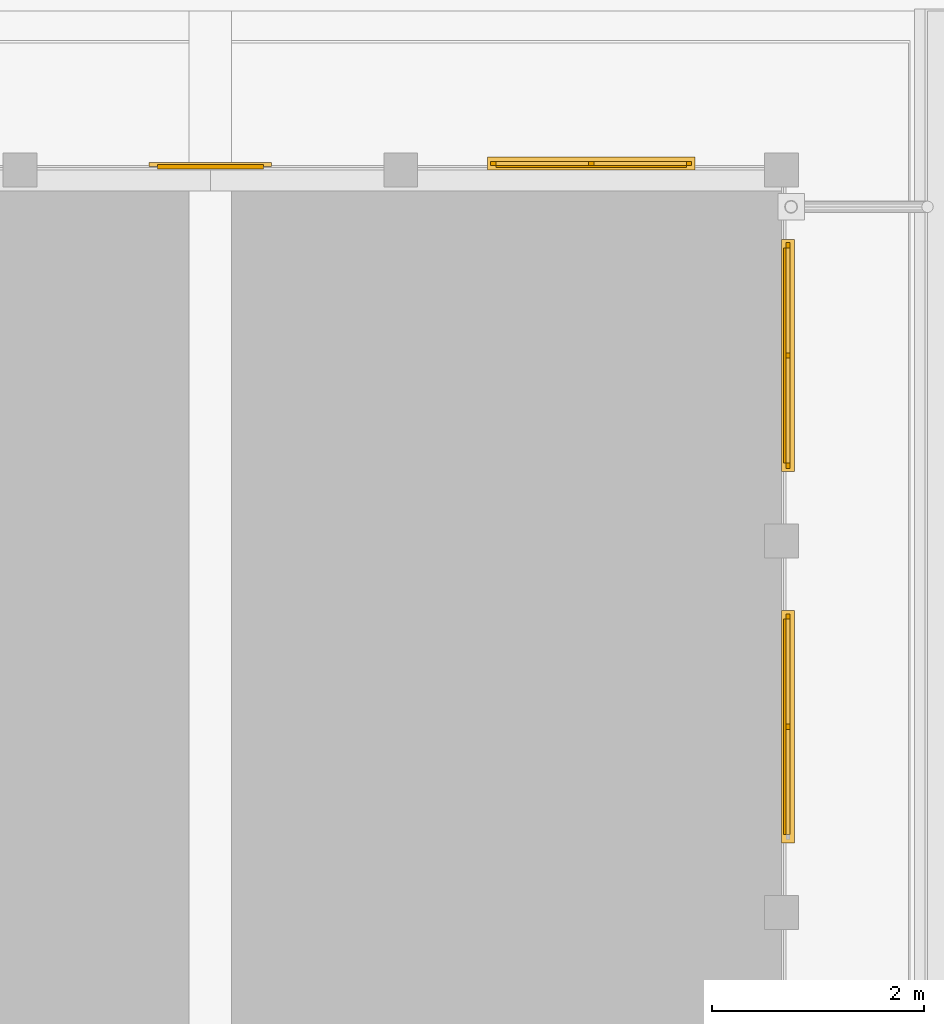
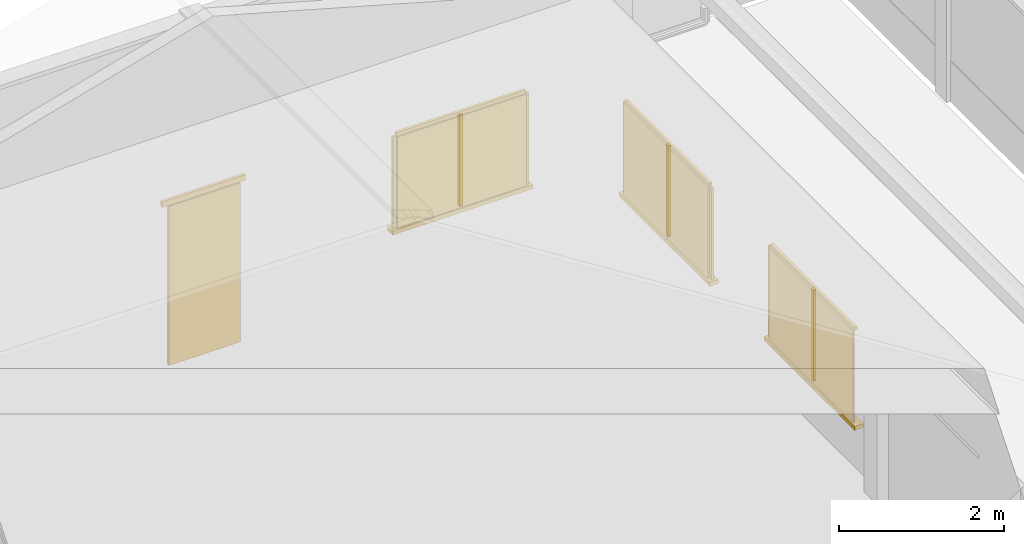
# One storey, part 73 of 177: 17 windows, 2 doors.
"""IFC4 building model written with IfcOpenShell, lengths in metres."""

from ifc_helpers import new_model, si_unit, origin, origin_with_axes, place, context, subcontext, project, spatial, triangles, element, save


model = new_model("IFC4")

# Units and contexts
model_context = context("Model", 3, precision=1e-05, world=origin_with_axes())
body_context = subcontext(model_context, "Body", "Model", "MODEL_VIEW")
ifc_project = project(units=[si_unit("LENGTHUNIT", "METRE"), si_unit("AREAUNIT", "SQUARE_METRE"), si_unit("VOLUMEUNIT", "CUBIC_METRE"), si_unit("PLANEANGLEUNIT", "RADIAN")], contexts=[model_context])

# Site, building, storey
site_placement = place(None, origin_with_axes())
site = spatial("IfcSite", under=ifc_project, at=site_placement, Name="Predio Los Mangos - Morales, San Martín", CompositionType="ELEMENT")
building_placement = place(site_placement, origin())
building = spatial("IfcBuilding", under=site, at=building_placement, Name="Hogar de Refugio Temporal", CompositionType="ELEMENT")
storey_placement = place(building_placement, origin())
storey = spatial("IfcBuildingStorey", under=building, at=storey_placement, Name="NIVEL 1 (NPT +0.00)", CompositionType="ELEMENT", Elevation=0.0)

# Doors
door_1_placement = place(storey_placement, origin())
element("IfcDoor", 1, at=door_1_placement, inside=storey, Name="E-07_pp", ObjectType="Puerta", PredefinedType="DOOR", context=body_context, shape_type="Tessellation", body=[
    triangles([(60.6, 127.81, 0.15), (61.6, 127.81, 0.15), (61.6, 127.85, 0.15), (60.6, 127.85, 0.15), (60.6, 127.81, 2.5), (61.6, 127.81, 2.5), (61.6, 127.85, 2.5), (60.6, 127.85, 2.5)], [[1, 4, 3], [1, 3, 2], [5, 6, 7], [5, 7, 8], [1, 2, 6], [1, 6, 5], [2, 3, 7], [2, 7, 6], [3, 4, 8], [3, 8, 7], [4, 1, 5], [4, 5, 8]]),
])
door_2_placement = place(storey_placement, origin())
element("IfcDoor", 2, at=door_2_placement, inside=storey, Name="E-07_pp_marco", ObjectType="Puerta", PredefinedType="DOOR", context=body_context, shape_type="Tessellation", body=[
    triangles([(60.52, 127.83, 2.5), (61.68, 127.83, 2.5), (61.68, 127.87, 2.5), (60.52, 127.87, 2.5), (60.52, 127.83, 2.58), (61.68, 127.83, 2.58), (61.68, 127.87, 2.58), (60.52, 127.87, 2.58)], [[1, 4, 3], [1, 3, 2], [5, 6, 7], [5, 7, 8], [1, 2, 6], [1, 6, 5], [2, 3, 7], [2, 7, 6], [3, 4, 8], [3, 8, 7], [4, 1, 5], [4, 5, 8]]),
])

# Windows
window_1_placement = place(storey_placement, origin())
element("IfcWindow", 3, at=window_1_placement, inside=storey, Name="E-07_vg2_vid", ObjectType="Ventana", PredefinedType="WINDOW", context=body_context, shape_type="Tessellation", body=[
    triangles([(63.8, 127.82, 1.05), (65.6, 127.82, 1.05), (65.6, 127.84, 1.05), (63.8, 127.84, 1.05), (63.8, 127.82, 2.4), (65.6, 127.82, 2.4), (65.6, 127.84, 2.4), (63.8, 127.84, 2.4)], [[1, 4, 3], [1, 3, 2], [5, 6, 7], [5, 7, 8], [1, 2, 6], [1, 6, 5], [2, 3, 7], [2, 7, 6], [3, 4, 8], [3, 8, 7], [4, 1, 5], [4, 5, 8]]),
])
window_2_placement = place(storey_placement, origin())
element("IfcWindow", 4, at=window_2_placement, inside=storey, Name="E-07_vg2_m", ObjectType="Ventana", PredefinedType="WINDOW", context=body_context, shape_type="Tessellation", body=[
    triangles([(63.75, 127.84, 1.05), (63.8, 127.84, 1.05), (63.8, 127.88, 1.05), (63.75, 127.88, 1.05), (63.75, 127.84, 2.4), (63.8, 127.84, 2.4), (63.8, 127.88, 2.4), (63.75, 127.88, 2.4)], [[1, 4, 3], [1, 3, 2], [5, 6, 7], [5, 7, 8], [1, 2, 6], [1, 6, 5], [2, 3, 7], [2, 7, 6], [3, 4, 8], [3, 8, 7], [4, 1, 5], [4, 5, 8]]),
])
window_3_placement = place(storey_placement, origin())
element("IfcWindow", 5, at=window_3_placement, inside=storey, Name="E-07_vg2_m", ObjectType="Ventana", PredefinedType="WINDOW", context=body_context, shape_type="Tessellation", body=[
    triangles([(65.6, 127.84, 1.05), (65.65, 127.84, 1.05), (65.65, 127.88, 1.05), (65.6, 127.88, 1.05), (65.6, 127.84, 2.4), (65.65, 127.84, 2.4), (65.65, 127.88, 2.4), (65.6, 127.88, 2.4)], [[1, 4, 3], [1, 3, 2], [5, 6, 7], [5, 7, 8], [1, 2, 6], [1, 6, 5], [2, 3, 7], [2, 7, 6], [3, 4, 8], [3, 8, 7], [4, 1, 5], [4, 5, 8]]),
])
window_4_placement = place(storey_placement, origin())
element("IfcWindow", 6, at=window_4_placement, inside=storey, Name="E-07_vg2_m", ObjectType="Ventana", PredefinedType="WINDOW", context=body_context, shape_type="Tessellation", body=[
    triangles([(63.8, 127.84, 2.4), (65.6, 127.84, 2.4), (65.6, 127.88, 2.4), (63.8, 127.88, 2.4), (63.8, 127.84, 2.45), (65.6, 127.84, 2.45), (65.6, 127.88, 2.45), (63.8, 127.88, 2.45)], [[1, 4, 3], [1, 3, 2], [5, 6, 7], [5, 7, 8], [1, 2, 6], [1, 6, 5], [2, 3, 7], [2, 7, 6], [3, 4, 8], [3, 8, 7], [4, 1, 5], [4, 5, 8]]),
])
window_5_placement = place(storey_placement, origin())
element("IfcWindow", 7, at=window_5_placement, inside=storey, Name="E-07_vg2_m", ObjectType="Ventana", PredefinedType="WINDOW", context=body_context, shape_type="Tessellation", body=[
    triangles([(64.675, 127.84, 1.05), (64.725, 127.84, 1.05), (64.725, 127.88, 1.05), (64.675, 127.88, 1.05), (64.675, 127.84, 2.4), (64.725, 127.84, 2.4), (64.725, 127.88, 2.4), (64.675, 127.88, 2.4)], [[1, 4, 3], [1, 3, 2], [5, 6, 7], [5, 7, 8], [1, 2, 6], [1, 6, 5], [2, 3, 7], [2, 7, 6], [3, 4, 8], [3, 8, 7], [4, 1, 5], [4, 5, 8]]),
])
window_6_placement = place(storey_placement, origin())
element("IfcWindow", 8, at=window_6_placement, inside=storey, Name="E-07_vg2_alf", ObjectType="Ventana", PredefinedType="WINDOW", context=body_context, shape_type="Tessellation", body=[
    triangles([(63.72, 127.8, 0.99), (65.68, 127.8, 0.99), (65.68, 127.92, 0.99), (63.72, 127.92, 0.99), (63.72, 127.8, 1.05), (65.68, 127.8, 1.05), (65.68, 127.92, 1.05), (63.72, 127.92, 1.05)], [[1, 4, 3], [1, 3, 2], [5, 6, 7], [5, 7, 8], [1, 2, 6], [1, 6, 5], [2, 3, 7], [2, 7, 6], [3, 4, 8], [3, 8, 7], [4, 1, 5], [4, 5, 8]]),
])
window_7_placement = place(storey_placement, origin())
element("IfcWindow", 9, at=window_7_placement, inside=storey, Name="E-07_v8_vid", ObjectType="Ventana", PredefinedType="WINDOW", context=body_context, shape_type="Tessellation", body=[
    triangles([(66.52, 121.5171, 1.05), (66.54, 121.5171, 1.05), (66.54, 123.5529, 1.05), (66.52, 123.5529, 1.05), (66.52, 121.5171, 2.4), (66.54, 121.5171, 2.4), (66.54, 123.5529, 2.4), (66.52, 123.5529, 2.4)], [[1, 4, 3], [1, 3, 2], [5, 6, 7], [5, 7, 8], [1, 2, 6], [1, 6, 5], [2, 3, 7], [2, 7, 6], [3, 4, 8], [3, 8, 7], [4, 1, 5], [4, 5, 8]]),
])
window_8_placement = place(storey_placement, origin())
element("IfcWindow", 10, at=window_8_placement, inside=storey, Name="E-07_v8_m", ObjectType="Ventana", PredefinedType="WINDOW", context=body_context, shape_type="Tessellation", body=[
    triangles([(66.54, 123.5529, 1.05), (66.58, 123.5529, 1.05), (66.58, 123.6029, 1.05), (66.54, 123.6029, 1.05), (66.54, 123.5529, 2.4), (66.58, 123.5529, 2.4), (66.58, 123.6029, 2.4), (66.54, 123.6029, 2.4)], [[1, 4, 3], [1, 3, 2], [5, 6, 7], [5, 7, 8], [1, 2, 6], [1, 6, 5], [2, 3, 7], [2, 7, 6], [3, 4, 8], [3, 8, 7], [4, 1, 5], [4, 5, 8]]),
])
window_9_placement = place(storey_placement, origin())
element("IfcWindow", 11, at=window_9_placement, inside=storey, Name="E-07_v8_m", ObjectType="Ventana", PredefinedType="WINDOW", context=body_context, shape_type="Tessellation", body=[
    triangles([(66.54, 121.5171, 2.4), (66.58, 121.5171, 2.4), (66.58, 123.5529, 2.4), (66.54, 123.5529, 2.4), (66.54, 121.5171, 2.45), (66.58, 121.5171, 2.45), (66.58, 123.5529, 2.45), (66.54, 123.5529, 2.45)], [[1, 4, 3], [1, 3, 2], [5, 6, 7], [5, 7, 8], [1, 2, 6], [1, 6, 5], [2, 3, 7], [2, 7, 6], [3, 4, 8], [3, 8, 7], [4, 1, 5], [4, 5, 8]]),
])
window_10_placement = place(storey_placement, origin())
element("IfcWindow", 12, at=window_10_placement, inside=storey, Name="E-07_v8_m", ObjectType="Ventana", PredefinedType="WINDOW", context=body_context, shape_type="Tessellation", body=[
    triangles([(66.54, 122.51, 1.05), (66.58, 122.51, 1.05), (66.58, 122.56, 1.05), (66.54, 122.56, 1.05), (66.54, 122.51, 2.4), (66.58, 122.51, 2.4), (66.58, 122.56, 2.4), (66.54, 122.56, 2.4)], [[1, 4, 3], [1, 3, 2], [5, 6, 7], [5, 7, 8], [1, 2, 6], [1, 6, 5], [2, 3, 7], [2, 7, 6], [3, 4, 8], [3, 8, 7], [4, 1, 5], [4, 5, 8]]),
])
window_11_placement = place(storey_placement, origin())
element("IfcWindow", 13, at=window_11_placement, inside=storey, Name="E-07_v8_alf", ObjectType="Ventana", PredefinedType="WINDOW", context=body_context, shape_type="Tessellation", body=[
    triangles([(66.5, 121.4371, 0.99), (66.62, 121.4371, 0.99), (66.62, 123.6329, 0.99), (66.5, 123.6329, 0.99), (66.5, 121.4371, 1.05), (66.62, 121.4371, 1.05), (66.62, 123.6329, 1.05), (66.5, 123.6329, 1.05)], [[1, 4, 3], [1, 3, 2], [5, 6, 7], [5, 7, 8], [1, 2, 6], [1, 6, 5], [2, 3, 7], [2, 7, 6], [3, 4, 8], [3, 8, 7], [4, 1, 5], [4, 5, 8]]),
])
window_12_placement = place(storey_placement, origin())
element("IfcWindow", 14, at=window_12_placement, inside=storey, Name="E-07_v9_vid", ObjectType="Ventana", PredefinedType="WINDOW", context=body_context, shape_type="Tessellation", body=[
    triangles([(66.52, 125.0271, 1.05), (66.54, 125.0271, 1.05), (66.54, 127.0629, 1.05), (66.52, 127.0629, 1.05), (66.52, 125.0271, 2.4), (66.54, 125.0271, 2.4), (66.54, 127.0629, 2.4), (66.52, 127.0629, 2.4)], [[1, 4, 3], [1, 3, 2], [5, 6, 7], [5, 7, 8], [1, 2, 6], [1, 6, 5], [2, 3, 7], [2, 7, 6], [3, 4, 8], [3, 8, 7], [4, 1, 5], [4, 5, 8]]),
])
window_13_placement = place(storey_placement, origin())
element("IfcWindow", 15, at=window_13_placement, inside=storey, Name="E-07_v9_m", ObjectType="Ventana", PredefinedType="WINDOW", context=body_context, shape_type="Tessellation", body=[
    triangles([(66.54, 124.9771, 1.05), (66.58, 124.9771, 1.05), (66.58, 125.0271, 1.05), (66.54, 125.0271, 1.05), (66.54, 124.9771, 2.4), (66.58, 124.9771, 2.4), (66.58, 125.0271, 2.4), (66.54, 125.0271, 2.4)], [[1, 4, 3], [1, 3, 2], [5, 6, 7], [5, 7, 8], [1, 2, 6], [1, 6, 5], [2, 3, 7], [2, 7, 6], [3, 4, 8], [3, 8, 7], [4, 1, 5], [4, 5, 8]]),
])
window_14_placement = place(storey_placement, origin())
element("IfcWindow", 16, at=window_14_placement, inside=storey, Name="E-07_v9_m", ObjectType="Ventana", PredefinedType="WINDOW", context=body_context, shape_type="Tessellation", body=[
    triangles([(66.54, 127.0629, 1.05), (66.58, 127.0629, 1.05), (66.58, 127.1129, 1.05), (66.54, 127.1129, 1.05), (66.54, 127.0629, 2.4), (66.58, 127.0629, 2.4), (66.58, 127.1129, 2.4), (66.54, 127.1129, 2.4)], [[1, 4, 3], [1, 3, 2], [5, 6, 7], [5, 7, 8], [1, 2, 6], [1, 6, 5], [2, 3, 7], [2, 7, 6], [3, 4, 8], [3, 8, 7], [4, 1, 5], [4, 5, 8]]),
])
window_15_placement = place(storey_placement, origin())
element("IfcWindow", 17, at=window_15_placement, inside=storey, Name="E-07_v9_m", ObjectType="Ventana", PredefinedType="WINDOW", context=body_context, shape_type="Tessellation", body=[
    triangles([(66.54, 125.0271, 2.4), (66.58, 125.0271, 2.4), (66.58, 127.0629, 2.4), (66.54, 127.0629, 2.4), (66.54, 125.0271, 2.45), (66.58, 125.0271, 2.45), (66.58, 127.0629, 2.45), (66.54, 127.0629, 2.45)], [[1, 4, 3], [1, 3, 2], [5, 6, 7], [5, 7, 8], [1, 2, 6], [1, 6, 5], [2, 3, 7], [2, 7, 6], [3, 4, 8], [3, 8, 7], [4, 1, 5], [4, 5, 8]]),
])
window_16_placement = place(storey_placement, origin())
element("IfcWindow", 18, at=window_16_placement, inside=storey, Name="E-07_v9_m", ObjectType="Ventana", PredefinedType="WINDOW", context=body_context, shape_type="Tessellation", body=[
    triangles([(66.54, 126.02, 1.05), (66.58, 126.02, 1.05), (66.58, 126.07, 1.05), (66.54, 126.07, 1.05), (66.54, 126.02, 2.4), (66.58, 126.02, 2.4), (66.58, 126.07, 2.4), (66.54, 126.07, 2.4)], [[1, 4, 3], [1, 3, 2], [5, 6, 7], [5, 7, 8], [1, 2, 6], [1, 6, 5], [2, 3, 7], [2, 7, 6], [3, 4, 8], [3, 8, 7], [4, 1, 5], [4, 5, 8]]),
])
window_17_placement = place(storey_placement, origin())
element("IfcWindow", 19, at=window_17_placement, inside=storey, Name="E-07_v9_alf", ObjectType="Ventana", PredefinedType="WINDOW", context=body_context, shape_type="Tessellation", body=[
    triangles([(66.5, 124.9471, 0.99), (66.62, 124.9471, 0.99), (66.62, 127.1429, 0.99), (66.5, 127.1429, 0.99), (66.5, 124.9471, 1.05), (66.62, 124.9471, 1.05), (66.62, 127.1429, 1.05), (66.5, 127.1429, 1.05)], [[1, 4, 3], [1, 3, 2], [5, 6, 7], [5, 7, 8], [1, 2, 6], [1, 6, 5], [2, 3, 7], [2, 7, 6], [3, 4, 8], [3, 8, 7], [4, 1, 5], [4, 5, 8]]),
])

save(model, "model.ifc")
